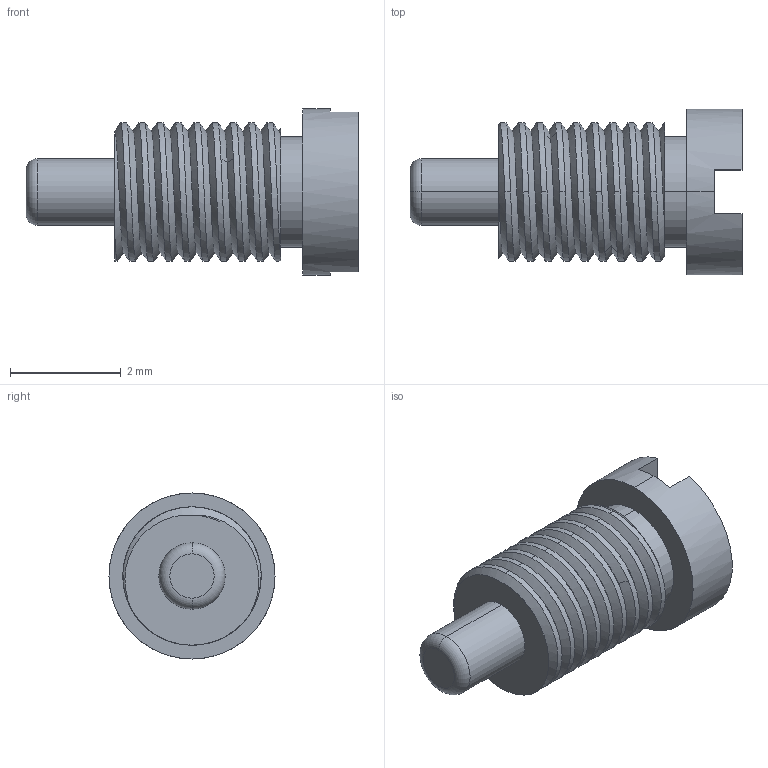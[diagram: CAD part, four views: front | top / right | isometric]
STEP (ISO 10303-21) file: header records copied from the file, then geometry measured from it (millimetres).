
FILE_DESCRIPTION((''),'2;1');
FILE_NAME('C518-01','2022-05-25T10:56:29',('Administrator'),(''),'CREO PARAMETRIC BY PTC INC, 2018400','CREO PARAMETRIC BY PTC INC, 2018400','');
FILE_SCHEMA(('CONFIG_CONTROL_DESIGN'));
Length unit declared in the file: millimetre
Products named in the file (1): C518-01
Bounding box: 6 x 3 x 3 mm (x, y, z)
Volume: 22.5 mm3; surface area: 69.3 mm2
Topology: 1 solids, 1 shells, 41 faces, 104 edges, 68 vertices
Faces by surface type: cylinder 24, plane 9, bspline 6, torus 2
Entity records: 3547 total; most frequent: CARTESIAN_POINT 2606, ORIENTED_EDGE 208, DIRECTION 149, EDGE_CURVE 104, VERTEX_POINT 68, AXIS2_PLACEMENT_3D 57, B_SPLINE_CURVE_WITH_KNOTS 47, EDGE_LOOP 44
